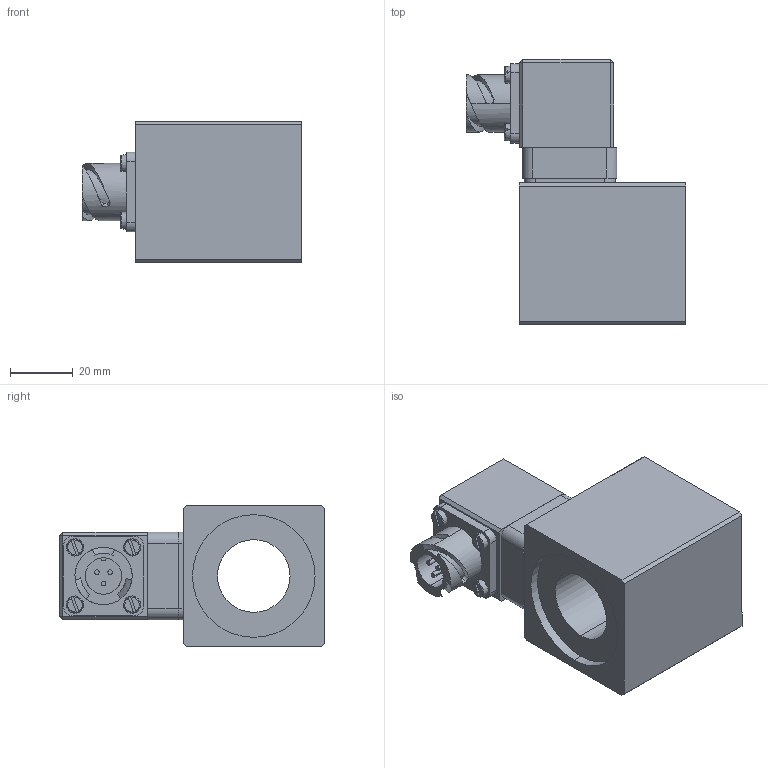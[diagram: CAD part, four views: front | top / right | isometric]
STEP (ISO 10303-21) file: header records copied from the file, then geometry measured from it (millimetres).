
FILE_DESCRIPTION (( 'STEP AP214' ), '1' );
FILE_NAME ('MBS45_23x50-AC.STEP', '2015-07-16T12:37:07', ( '' ), ( '' ), 'SwSTEP 2.0', 'SolidWorks 2014', '' );
FILE_SCHEMA (( 'AUTOMOTIVE_DESIGN' ));
Length unit declared in the file: millimetre
Products named in the file (2): MBS45_23x50-AC
Bounding box: 70 x 84.3 x 45 mm (x, y, z)
Volume: 118282.6 mm3; surface area: 26581.4 mm2
Topology: 1 solids, 20 shells, 410 faces, 1009 edges, 645 vertices
Faces by surface type: plane 225, cylinder 120, cone 32, torus 24, bspline 9
Entity records: 16924 total; most frequent: CARTESIAN_POINT 3028, DIRECTION 2049, ORIENTED_EDGE 1998, EDGE_CURVE 999, AXIS2_PLACEMENT_3D 760, VERTEX_POINT 645, LINE 529, VECTOR 529
